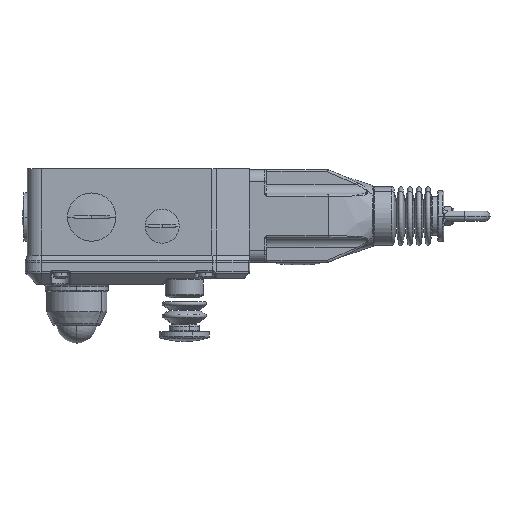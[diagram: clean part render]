
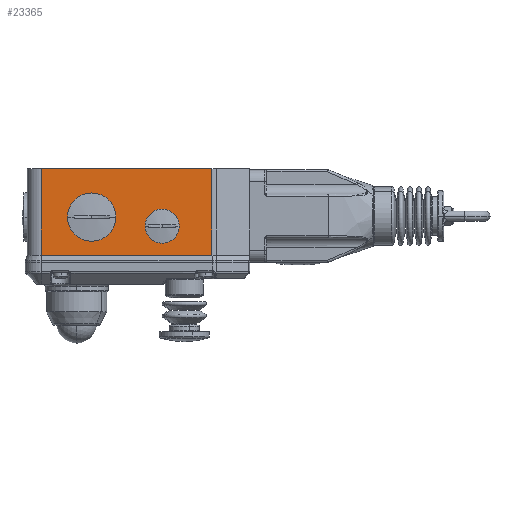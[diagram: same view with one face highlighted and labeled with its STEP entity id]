
A CAD part, left-side view. The second image highlights one B-rep face of the part: STEP entity #23365.
In plain terms, the highlighted planar face has unit normal (-1, 0, 0).
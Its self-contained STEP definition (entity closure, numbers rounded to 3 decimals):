
#4587 = EDGE_CURVE ( 'NONE', #13773, #13888, #10762, .T. ) ;
#4596 = EDGE_CURVE ( 'NONE', #14134, #14278, #10799, .T. ) ;
#4609 = EDGE_CURVE ( 'NONE', #13781, #14235, #10842, .T. ) ;
#4630 = EDGE_CURVE ( 'NONE', #14278, #14134, #10915, .T. ) ;
#4644 = EDGE_CURVE ( 'NONE', #14439, #13865, #10959, .T. ) ;
#4748 = EDGE_CURVE ( 'NONE', #13888, #13865, #11287, .T. ) ;
#4752 = EDGE_CURVE ( 'NONE', #14439, #13773, #11326, .T. ) ;
#6265 = CARTESIAN_POINT ( 'NONE',  ( 0., -7., 3.8 ) ) ;
#6273 = CARTESIAN_POINT ( 'NONE',  ( 0., -73.45, 18.2 ) ) ;
#6357 = CARTESIAN_POINT ( 'NONE',  ( 0., -91.699, 46.7 ) ) ;
#6423 = ORIENTED_EDGE ( 'NONE', *, *, #4609, .T. ) ;
#6443 = ORIENTED_EDGE ( 'NONE', *, *, #4752, .T. ) ;
#6453 = ORIENTED_EDGE ( 'NONE', *, *, #4596, .T. ) ;
#6487 = ORIENTED_EDGE ( 'NONE', *, *, #4748, .T. ) ;
#6493 = ORIENTED_EDGE ( 'NONE', *, *, #10483, .T. ) ;
#6497 = ORIENTED_EDGE ( 'NONE', *, *, #4630, .T. ) ;
#6510 = ORIENTED_EDGE ( 'NONE', *, *, #4587, .T. ) ;
#6517 = ORIENTED_EDGE ( 'NONE', *, *, #4644, .F. ) ;
#6793 = EDGE_LOOP ( 'NONE', ( #6510, #6487, #6517, #6443 ) ) ;
#6799 = EDGE_LOOP ( 'NONE', ( #6493, #6423 ) ) ;
#6888 = EDGE_LOOP ( 'NONE', ( #6453, #6497 ) ) ;
#7425 = FACE_BOUND ( 'NONE', #6888, .T. ) ;
#7439 = FACE_BOUND ( 'NONE', #6799, .T. ) ;
#7442 = FACE_OUTER_BOUND ( 'NONE', #6793, .T. ) ;
#8488 = AXIS2_PLACEMENT_3D ( 'NONE', #15728, #15736, #15737 ) ;
#8686 = CARTESIAN_POINT ( 'NONE',  ( 0., -91.699, 3.8 ) ) ;
#8875 = CARTESIAN_POINT ( 'NONE',  ( 0., -21., 22.7 ) ) ;
#8938 = CARTESIAN_POINT ( 'NONE',  ( 0., -60.55, 18.2 ) ) ;
#8975 = CARTESIAN_POINT ( 'NONE',  ( 0., -43., 22.7 ) ) ;
#9136 = CARTESIAN_POINT ( 'NONE',  ( 0., -7., 46.7 ) ) ;
#10483 = EDGE_CURVE ( 'NONE', #14235, #13781, #12602, .T. ) ;
#10762 = LINE ( 'NONE', #23245, #10764 ) ;
#10764 = VECTOR ( 'NONE', #23257, 1000. ) ;
#10799 = CIRCLE ( 'NONE', #17892, 11. ) ;
#10842 = CIRCLE ( 'NONE', #17907, 6.45 ) ;
#10911 = VECTOR ( 'NONE', #23106, 1000. ) ;
#10915 = CIRCLE ( 'NONE', #17921, 11. ) ;
#10959 = LINE ( 'NONE', #23117, #10911 ) ;
#11287 = LINE ( 'NONE', #23686, #11310 ) ;
#11310 = VECTOR ( 'NONE', #23685, 1000. ) ;
#11326 = LINE ( 'NONE', #23673, #11329 ) ;
#11329 = VECTOR ( 'NONE', #23672, 1000. ) ;
#12602 = CIRCLE ( 'NONE', #19333, 6.45 ) ;
#13773 = VERTEX_POINT ( 'NONE', #6265 ) ;
#13781 = VERTEX_POINT ( 'NONE', #6273 ) ;
#13865 = VERTEX_POINT ( 'NONE', #6357 ) ;
#13888 = VERTEX_POINT ( 'NONE', #8686 ) ;
#14134 = VERTEX_POINT ( 'NONE', #8875 ) ;
#14235 = VERTEX_POINT ( 'NONE', #8938 ) ;
#14278 = VERTEX_POINT ( 'NONE', #8975 ) ;
#14439 = VERTEX_POINT ( 'NONE', #9136 ) ;
#15728 = CARTESIAN_POINT ( 'NONE',  ( 0., 0., 46.7 ) ) ;
#15735 = PLANE ( 'NONE',  #8488 ) ;
#15736 = DIRECTION ( 'NONE',  ( 1., 0., 0. ) ) ;
#15737 = DIRECTION ( 'NONE',  ( 0., 1., 0. ) ) ;
#17892 = AXIS2_PLACEMENT_3D ( 'NONE', #23235, #23227, #23226 ) ;
#17907 = AXIS2_PLACEMENT_3D ( 'NONE', #23204, #23194, #23193 ) ;
#17921 = AXIS2_PLACEMENT_3D ( 'NONE', #23165, #23141, #23140 ) ;
#18829 = CARTESIAN_POINT ( 'NONE',  ( 0., -67., 18.2 ) ) ;
#18840 = DIRECTION ( 'NONE',  ( 1., 0., 0. ) ) ;
#18841 = DIRECTION ( 'NONE',  ( 0., 1., 0. ) ) ;
#19333 = AXIS2_PLACEMENT_3D ( 'NONE', #18829, #18840, #18841 ) ;
#23106 = DIRECTION ( 'NONE',  ( 0., -1., 0. ) ) ;
#23117 = CARTESIAN_POINT ( 'NONE',  ( 0., 0., 46.7 ) ) ;
#23140 = DIRECTION ( 'NONE',  ( 0., 1., 0. ) ) ;
#23141 = DIRECTION ( 'NONE',  ( 1., 0., 0. ) ) ;
#23165 = CARTESIAN_POINT ( 'NONE',  ( 0., -32., 22.7 ) ) ;
#23193 = DIRECTION ( 'NONE',  ( 0., 1., 0. ) ) ;
#23194 = DIRECTION ( 'NONE',  ( 1., 0., 0. ) ) ;
#23204 = CARTESIAN_POINT ( 'NONE',  ( 0., -67., 18.2 ) ) ;
#23226 = DIRECTION ( 'NONE',  ( 0., 1., 0. ) ) ;
#23227 = DIRECTION ( 'NONE',  ( 1., 0., 0. ) ) ;
#23235 = CARTESIAN_POINT ( 'NONE',  ( 0., -32., 22.7 ) ) ;
#23245 = CARTESIAN_POINT ( 'NONE',  ( 0., -92.808, 3.8 ) ) ;
#23257 = DIRECTION ( 'NONE',  ( 0., -1., 0. ) ) ;
#23365 = ADVANCED_FACE ( 'NONE', ( #7425, #7439, #7442 ), #15735, .F. ) ;
#23672 = DIRECTION ( 'NONE',  ( 0., 0., -1. ) ) ;
#23673 = CARTESIAN_POINT ( 'NONE',  ( 0., -7., 46.7 ) ) ;
#23685 = DIRECTION ( 'NONE',  ( 0., 0., 1. ) ) ;
#23686 = CARTESIAN_POINT ( 'NONE',  ( 0., -91.699, 46.7 ) ) ;
